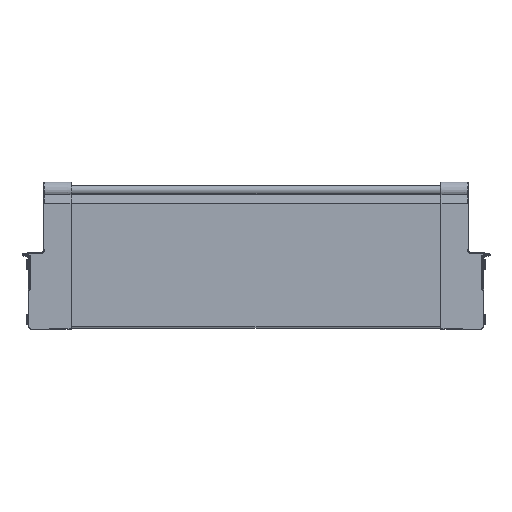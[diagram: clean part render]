
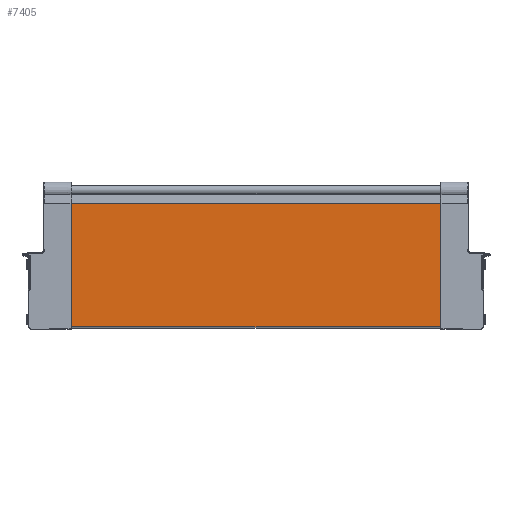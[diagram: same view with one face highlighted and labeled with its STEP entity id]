
A CAD part, top view. The second image highlights one B-rep face of the part: STEP entity #7405.
In plain terms, the highlighted planar face has unit normal (0, 0, 1).
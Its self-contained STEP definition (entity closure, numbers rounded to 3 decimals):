
#56 = EDGE_CURVE ( 'NONE', #58, #57, #1284, .T. ) ;
#57 = VERTEX_POINT ( 'NONE', #1280 ) ;
#58 = VERTEX_POINT ( 'NONE', #1279 ) ;
#1279 = CARTESIAN_POINT ( 'NONE',  ( -38.8, 45.248, 4.05 ) ) ;
#1280 = CARTESIAN_POINT ( 'NONE',  ( -38.8, -64.725, 4.05 ) ) ;
#1281 = DIRECTION ( 'NONE',  ( 0., -1., 0. ) ) ;
#1282 = VECTOR ( 'NONE', #1281, 1000. ) ;
#1283 = CARTESIAN_POINT ( 'NONE',  ( -38.8, 45.248, 4.05 ) ) ;
#1284 = LINE ( 'NONE', #1283, #1282 ) ;
#4987 = CARTESIAN_POINT ( 'NONE',  ( -368.3, -64.725, 4.05 ) ) ;
#4988 = LINE ( 'NONE', #5112, #5111 ) ;
#4989 = DIRECTION ( 'NONE',  ( 0., -1., 0. ) ) ;
#4990 = VECTOR ( 'NONE', #4989, 1000. ) ;
#4991 = CARTESIAN_POINT ( 'NONE',  ( -368.3, 45.248, 4.05 ) ) ;
#4992 = LINE ( 'NONE', #4991, #4990 ) ;
#4993 = DIRECTION ( 'NONE',  ( 0., 1., 0. ) ) ;
#4994 = DIRECTION ( 'NONE',  ( 0., 0., -1. ) ) ;
#5040 = PLANE ( 'NONE',  #5042 ) ;
#5041 = CARTESIAN_POINT ( 'NONE',  ( 89.157, 45.248, 4.05 ) ) ;
#5042 = AXIS2_PLACEMENT_3D ( 'NONE', #5041, #4994, #4993 ) ;
#5043 = FACE_OUTER_BOUND ( 'NONE', #7406, .T. ) ;
#5044 = DIRECTION ( 'NONE',  ( -1., 0., 0. ) ) ;
#5045 = VECTOR ( 'NONE', #5044, 1000. ) ;
#5046 = CARTESIAN_POINT ( 'NONE',  ( 89.157, 45.248, 4.05 ) ) ;
#5047 = LINE ( 'NONE', #5046, #5045 ) ;
#5110 = DIRECTION ( 'NONE',  ( -1., 0., 0. ) ) ;
#5111 = VECTOR ( 'NONE', #5110, 1000. ) ;
#5112 = CARTESIAN_POINT ( 'NONE',  ( 89.157, -64.725, 4.05 ) ) ;
#5182 = CARTESIAN_POINT ( 'NONE',  ( -368.3, 45.248, 4.05 ) ) ;
#7404 = EDGE_CURVE ( 'NONE', #58, #7481, #5047, .T. ) ;
#7405 = ADVANCED_FACE ( 'NONE', ( #5043 ), #5040, .F. ) ;
#7406 = EDGE_LOOP ( 'NONE', ( #7407, #7408, #7409, #7412 ) ) ;
#7407 = ORIENTED_EDGE ( 'NONE', *, *, #56, .F. ) ;
#7408 = ORIENTED_EDGE ( 'NONE', *, *, #7404, .T. ) ;
#7409 = ORIENTED_EDGE ( 'NONE', *, *, #7410, .T. ) ;
#7410 = EDGE_CURVE ( 'NONE', #7481, #7411, #4992, .T. ) ;
#7411 = VERTEX_POINT ( 'NONE', #4987 ) ;
#7412 = ORIENTED_EDGE ( 'NONE', *, *, #7413, .F. ) ;
#7413 = EDGE_CURVE ( 'NONE', #57, #7411, #4988, .T. ) ;
#7481 = VERTEX_POINT ( 'NONE', #5182 ) ;
